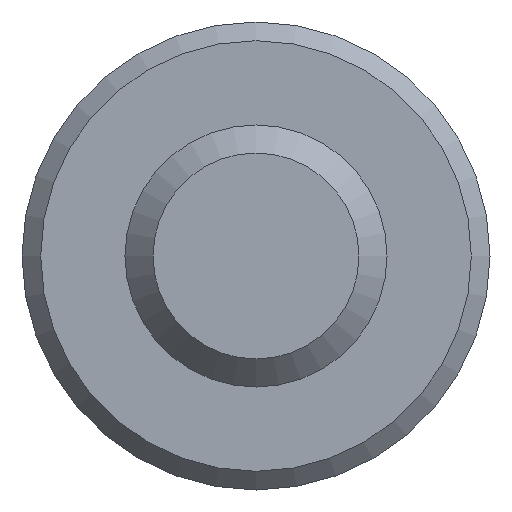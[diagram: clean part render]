
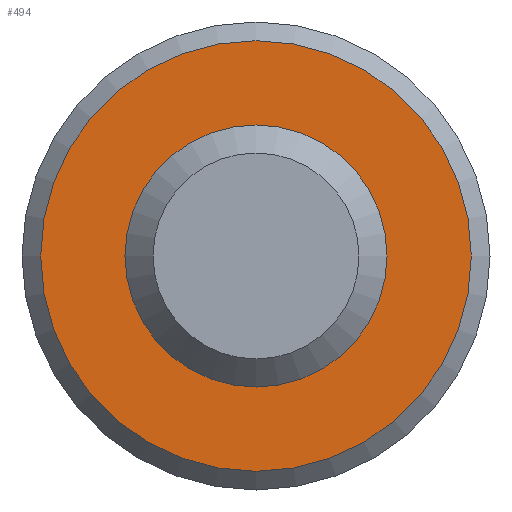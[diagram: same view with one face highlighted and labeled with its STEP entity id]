
A CAD part, front view. The second image highlights one B-rep face of the part: STEP entity #494.
In plain terms, the highlighted planar face has unit normal (0, -1, 0).
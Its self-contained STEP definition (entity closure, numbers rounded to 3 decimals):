
#31 = CARTESIAN_POINT ( 'NONE',  ( 0., 8.2, 1.15 ) ) ;
#57 = VERTEX_POINT ( 'NONE', #31 ) ;
#81 = VERTEX_POINT ( 'NONE', #217 ) ;
#100 = DIRECTION ( 'NONE',  ( 0., -1., 0. ) ) ;
#117 = DIRECTION ( 'NONE',  ( 0., 0., 1. ) ) ;
#151 = DIRECTION ( 'NONE',  ( 0., 0., -1. ) ) ;
#167 = DIRECTION ( 'NONE',  ( 0., 1., 0. ) ) ;
#170 = FACE_BOUND ( 'NONE', #247, .T. ) ;
#205 = CIRCLE ( 'NONE', #403, 1.15 ) ;
#217 = CARTESIAN_POINT ( 'NONE',  ( 0., 8.2, -0.7 ) ) ;
#222 = CIRCLE ( 'NONE', #414, 0.7 ) ;
#247 = EDGE_LOOP ( 'NONE', ( #501 ) ) ;
#337 = PLANE ( 'NONE',  #352 ) ;
#351 = EDGE_CURVE ( 'NONE', #81, #81, #222, .T. ) ;
#352 = AXIS2_PLACEMENT_3D ( 'NONE', #383, #167, #117 ) ;
#353 = DIRECTION ( 'NONE',  ( 0., 0., 1. ) ) ;
#383 = CARTESIAN_POINT ( 'NONE',  ( -1.25, 8.2, 0. ) ) ;
#393 = DIRECTION ( 'NONE',  ( 0., -1., 0. ) ) ;
#398 = EDGE_LOOP ( 'NONE', ( #497 ) ) ;
#403 = AXIS2_PLACEMENT_3D ( 'NONE', #575, #393, #353 ) ;
#414 = AXIS2_PLACEMENT_3D ( 'NONE', #518, #100, #151 ) ;
#492 = FACE_OUTER_BOUND ( 'NONE', #398, .T. ) ;
#494 = ADVANCED_FACE ( 'NONE', ( #492, #170 ), #337, .F. ) ;
#497 = ORIENTED_EDGE ( 'NONE', *, *, #525, .T. ) ;
#501 = ORIENTED_EDGE ( 'NONE', *, *, #351, .F. ) ;
#518 = CARTESIAN_POINT ( 'NONE',  ( 0., 8.2, 0. ) ) ;
#525 = EDGE_CURVE ( 'NONE', #57, #57, #205, .T. ) ;
#575 = CARTESIAN_POINT ( 'NONE',  ( 0., 8.2, 0. ) ) ;
